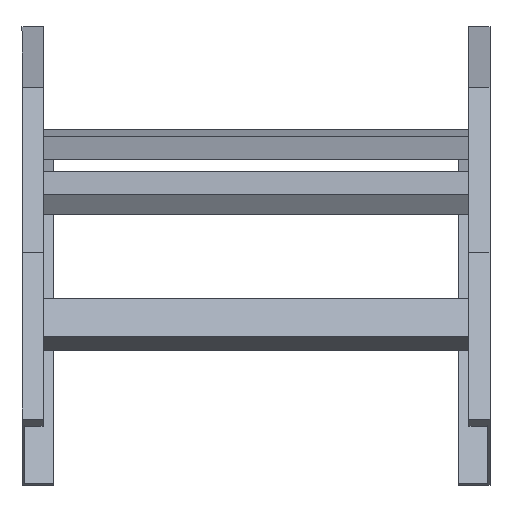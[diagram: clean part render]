
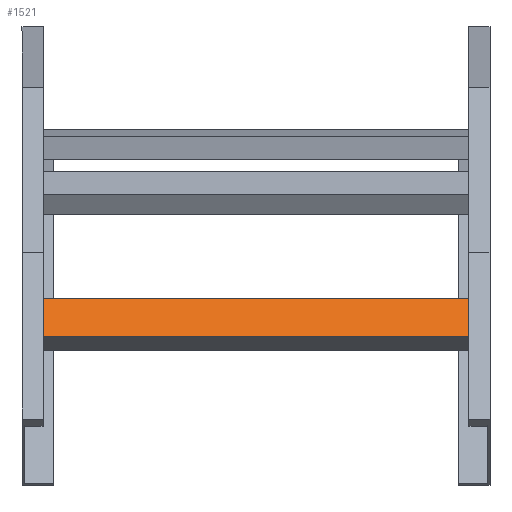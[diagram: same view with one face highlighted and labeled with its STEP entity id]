
A CAD part, top view. The second image highlights one B-rep face of the part: STEP entity #1521.
In plain terms, the highlighted planar face has unit normal (0, 0.609, 0.793) as drawn and (0, 1, 0) by its records, which use the part's own axes.
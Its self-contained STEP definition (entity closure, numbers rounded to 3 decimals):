
#19 = LINE ( 'NONE', #1422, #707 ) ;
#107 = AXIS2_PLACEMENT_3D ( 'NONE', #779, #1451, #1594 ) ;
#124 = ORIENTED_EDGE ( 'NONE', *, *, #1327, .T. ) ;
#136 = VECTOR ( 'NONE', #316, 1000. ) ;
#183 = CARTESIAN_POINT ( 'NONE',  ( 198., 20., 20.25 ) ) ;
#191 = VECTOR ( 'NONE', #863, 1000. ) ;
#193 = LINE ( 'NONE', #183, #136 ) ;
#309 = VERTEX_POINT ( 'NONE', #825 ) ;
#316 = DIRECTION ( 'NONE',  ( -1., 0., 0. ) ) ;
#359 = ORIENTED_EDGE ( 'NONE', *, *, #1231, .F. ) ;
#386 = CARTESIAN_POINT ( 'NONE',  ( 198., 20., -20.25 ) ) ;
#447 = CARTESIAN_POINT ( 'NONE',  ( -198., 20., 20.25 ) ) ;
#477 = VERTEX_POINT ( 'NONE', #851 ) ;
#497 = LINE ( 'NONE', #386, #191 ) ;
#707 = VECTOR ( 'NONE', #786, 1000. ) ;
#779 = CARTESIAN_POINT ( 'NONE',  ( 198., 20., 20.25 ) ) ;
#786 = DIRECTION ( 'NONE',  ( 0., 0., 1. ) ) ;
#825 = CARTESIAN_POINT ( 'NONE',  ( 198., 20., -20.25 ) ) ;
#828 = LINE ( 'NONE', #1361, #1352 ) ;
#851 = CARTESIAN_POINT ( 'NONE',  ( 198., 20., 20.25 ) ) ;
#863 = DIRECTION ( 'NONE',  ( -1., 0., 0. ) ) ;
#891 = CARTESIAN_POINT ( 'NONE',  ( -198., 20., -20.25 ) ) ;
#974 = VERTEX_POINT ( 'NONE', #891 ) ;
#1231 = EDGE_CURVE ( 'NONE', #477, #1263, #193, .T. ) ;
#1263 = VERTEX_POINT ( 'NONE', #447 ) ;
#1290 = PLANE ( 'NONE',  #107 ) ;
#1327 = EDGE_CURVE ( 'NONE', #309, #974, #497, .T. ) ;
#1352 = VECTOR ( 'NONE', #1465, 1000. ) ;
#1361 = CARTESIAN_POINT ( 'NONE',  ( -198., 20., 20.25 ) ) ;
#1422 = CARTESIAN_POINT ( 'NONE',  ( 198., 20., 20.25 ) ) ;
#1444 = FACE_OUTER_BOUND ( 'NONE', #1661, .T. ) ;
#1451 = DIRECTION ( 'NONE',  ( 0., -1., 0. ) ) ;
#1461 = EDGE_CURVE ( 'NONE', #309, #477, #19, .T. ) ;
#1465 = DIRECTION ( 'NONE',  ( 0., 0., 1. ) ) ;
#1521 = ADVANCED_FACE ( 'NONE', ( #1444 ), #1290, .F. ) ;
#1594 = DIRECTION ( 'NONE',  ( 0., 0., -1. ) ) ;
#1625 = ORIENTED_EDGE ( 'NONE', *, *, #1461, .F. ) ;
#1643 = EDGE_CURVE ( 'NONE', #974, #1263, #828, .T. ) ;
#1661 = EDGE_LOOP ( 'NONE', ( #1664, #359, #1625, #124 ) ) ;
#1664 = ORIENTED_EDGE ( 'NONE', *, *, #1643, .T. ) ;
